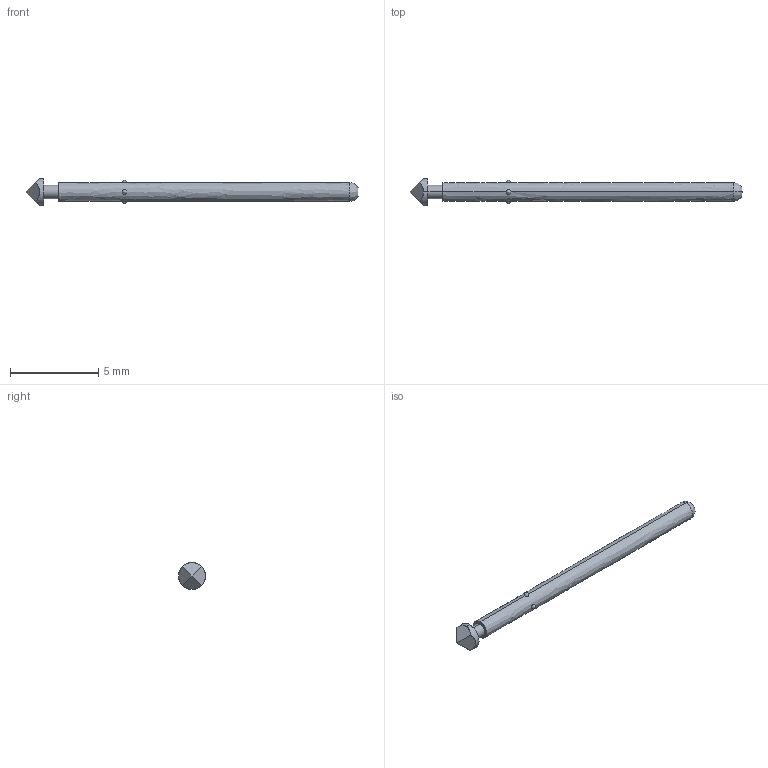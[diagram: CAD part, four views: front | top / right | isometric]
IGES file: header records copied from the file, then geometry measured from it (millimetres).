
Start section: SolidWorks IGES file using analytic representation for surfaces
Global section: file name: O:\PYLON\IGES FILES\P2663\P2663G-1P1S REC'D.IGS; native system: SolidWorks 2015; preprocessor: SolidWorks 2015; author: kgolden; date: 171019.102201; units: inch
Bounding box: 18.82 x 1.52 x 1.52 mm (x, y, z)
Surface area: 69.9 mm2 (no closed solid volume)
Topology: 0 solids, 0 shells, 25 faces, 314 edges, 298 vertices
Faces by surface type: revolution 16, bspline 9
